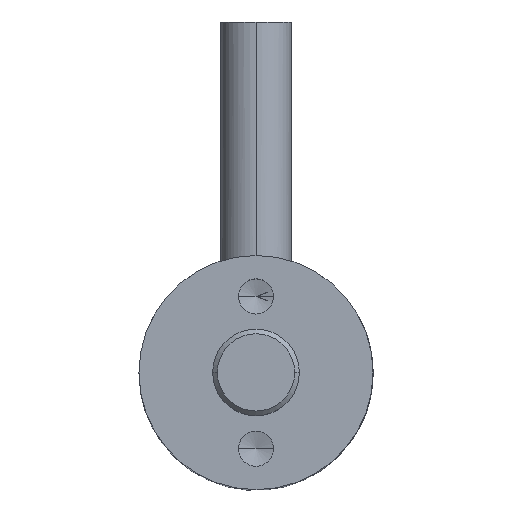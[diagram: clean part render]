
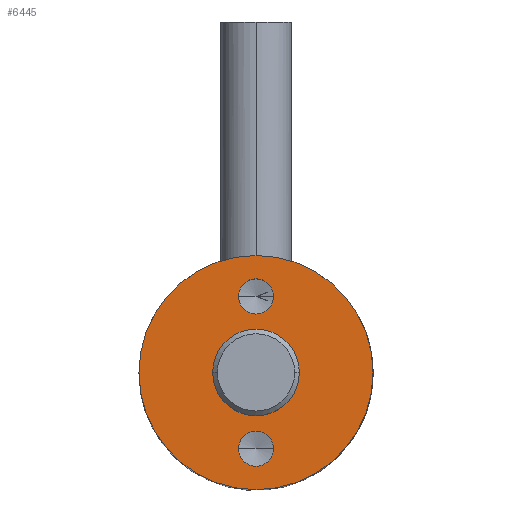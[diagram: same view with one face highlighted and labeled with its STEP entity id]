
A CAD part, top view. The second image highlights one B-rep face of the part: STEP entity #6445.
In plain terms, the highlighted planar face has unit normal (0, 0, 1).
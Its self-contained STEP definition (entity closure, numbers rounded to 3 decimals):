
#2 = EDGE_CURVE ( 'NONE', #4140, #4771, #4032, .T. ) ;
#69 = DIRECTION ( 'NONE',  ( 1., 0., 0. ) ) ;
#192 = CARTESIAN_POINT ( 'NONE',  ( 0., 3.25, 19.5 ) ) ;
#317 = PLANE ( 'NONE',  #7851 ) ;
#332 = FACE_BOUND ( 'NONE', #2342, .T. ) ;
#572 = CIRCLE ( 'NONE', #5124, 0.75 ) ;
#589 = ORIENTED_EDGE ( 'NONE', *, *, #1223, .F. ) ;
#864 = VERTEX_POINT ( 'NONE', #5380 ) ;
#1046 = AXIS2_PLACEMENT_3D ( 'NONE', #3813, #2411, #69 ) ;
#1127 = DIRECTION ( 'NONE',  ( 1., 0., 0. ) ) ;
#1222 = VERTEX_POINT ( 'NONE', #6937 ) ;
#1223 = EDGE_CURVE ( 'NONE', #2688, #5273, #5090, .T. ) ;
#1263 = AXIS2_PLACEMENT_3D ( 'NONE', #2432, #6803, #3965 ) ;
#1562 = CARTESIAN_POINT ( 'NONE',  ( 5., 0., 19.5 ) ) ;
#1617 = AXIS2_PLACEMENT_3D ( 'NONE', #3899, #9104, #4638 ) ;
#1626 = CIRCLE ( 'NONE', #6466, 0.75 ) ;
#1628 = DIRECTION ( 'NONE',  ( 0., 0., 1. ) ) ;
#1837 = CIRCLE ( 'NONE', #5545, 0.75 ) ;
#2185 = DIRECTION ( 'NONE',  ( 1., 0., 0. ) ) ;
#2221 = EDGE_CURVE ( 'NONE', #864, #3204, #1626, .T. ) ;
#2342 = EDGE_LOOP ( 'NONE', ( #7182, #7728 ) ) ;
#2355 = CARTESIAN_POINT ( 'NONE',  ( 0., -3.25, 19.5 ) ) ;
#2411 = DIRECTION ( 'NONE',  ( 0., 0., 1. ) ) ;
#2432 = CARTESIAN_POINT ( 'NONE',  ( 0., 0., 19.5 ) ) ;
#2653 = ORIENTED_EDGE ( 'NONE', *, *, #2221, .F. ) ;
#2688 = VERTEX_POINT ( 'NONE', #5370 ) ;
#2919 = ORIENTED_EDGE ( 'NONE', *, *, #3092, .F. ) ;
#3092 = EDGE_CURVE ( 'NONE', #3204, #864, #4422, .T. ) ;
#3111 = FACE_OUTER_BOUND ( 'NONE', #3936, .T. ) ;
#3123 = CARTESIAN_POINT ( 'NONE',  ( 0., 0., 19.5 ) ) ;
#3204 = VERTEX_POINT ( 'NONE', #7953 ) ;
#3246 = CARTESIAN_POINT ( 'NONE',  ( 0., 0., 19.5 ) ) ;
#3285 = EDGE_CURVE ( 'NONE', #5273, #2688, #4758, .T. ) ;
#3354 = FACE_BOUND ( 'NONE', #6453, .T. ) ;
#3813 = CARTESIAN_POINT ( 'NONE',  ( 0., 0., 19.5 ) ) ;
#3899 = CARTESIAN_POINT ( 'NONE',  ( 0., -3.25, 19.5 ) ) ;
#3936 = EDGE_LOOP ( 'NONE', ( #6780, #5757 ) ) ;
#3959 = CARTESIAN_POINT ( 'NONE',  ( 1.85, 0., 19.5 ) ) ;
#3965 = DIRECTION ( 'NONE',  ( 1., 0., 0. ) ) ;
#4032 = CIRCLE ( 'NONE', #1046, 5. ) ;
#4140 = VERTEX_POINT ( 'NONE', #4463 ) ;
#4422 = CIRCLE ( 'NONE', #1617, 0.75 ) ;
#4463 = CARTESIAN_POINT ( 'NONE',  ( -5., 0., 19.5 ) ) ;
#4586 = DIRECTION ( 'NONE',  ( 1., 0., 0. ) ) ;
#4609 = AXIS2_PLACEMENT_3D ( 'NONE', #3123, #6817, #5343 ) ;
#4621 = DIRECTION ( 'NONE',  ( 0., 0., 1. ) ) ;
#4638 = DIRECTION ( 'NONE',  ( 1., 0., 0. ) ) ;
#4758 = CIRCLE ( 'NONE', #4609, 1.85 ) ;
#4771 = VERTEX_POINT ( 'NONE', #1562 ) ;
#4796 = EDGE_CURVE ( 'NONE', #7703, #1222, #572, .T. ) ;
#5090 = CIRCLE ( 'NONE', #5911, 1.85 ) ;
#5124 = AXIS2_PLACEMENT_3D ( 'NONE', #192, #1628, #4586 ) ;
#5273 = VERTEX_POINT ( 'NONE', #3959 ) ;
#5343 = DIRECTION ( 'NONE',  ( 1., 0., 0. ) ) ;
#5370 = CARTESIAN_POINT ( 'NONE',  ( -1.85, 0., 19.5 ) ) ;
#5380 = CARTESIAN_POINT ( 'NONE',  ( 0.75, -3.25, 19.5 ) ) ;
#5545 = AXIS2_PLACEMENT_3D ( 'NONE', #6564, #6629, #2185 ) ;
#5757 = ORIENTED_EDGE ( 'NONE', *, *, #8735, .T. ) ;
#5802 = CIRCLE ( 'NONE', #1263, 5. ) ;
#5911 = AXIS2_PLACEMENT_3D ( 'NONE', #3246, #4621, #6118 ) ;
#6118 = DIRECTION ( 'NONE',  ( 1., 0., 0. ) ) ;
#6280 = EDGE_LOOP ( 'NONE', ( #589, #6659 ) ) ;
#6285 = DIRECTION ( 'NONE',  ( 1., 0., 0. ) ) ;
#6445 = ADVANCED_FACE ( 'NONE', ( #3354, #332, #9061, #3111 ), #317, .T. ) ;
#6453 = EDGE_LOOP ( 'NONE', ( #2653, #2919 ) ) ;
#6466 = AXIS2_PLACEMENT_3D ( 'NONE', #2355, #9091, #1127 ) ;
#6551 = EDGE_CURVE ( 'NONE', #1222, #7703, #1837, .T. ) ;
#6564 = CARTESIAN_POINT ( 'NONE',  ( 0., 3.25, 19.5 ) ) ;
#6629 = DIRECTION ( 'NONE',  ( 0., 0., 1. ) ) ;
#6659 = ORIENTED_EDGE ( 'NONE', *, *, #3285, .F. ) ;
#6780 = ORIENTED_EDGE ( 'NONE', *, *, #2, .T. ) ;
#6803 = DIRECTION ( 'NONE',  ( 0., 0., 1. ) ) ;
#6817 = DIRECTION ( 'NONE',  ( 0., 0., 1. ) ) ;
#6847 = CARTESIAN_POINT ( 'NONE',  ( 0.75, 3.25, 19.5 ) ) ;
#6937 = CARTESIAN_POINT ( 'NONE',  ( -0.75, 3.25, 19.5 ) ) ;
#7182 = ORIENTED_EDGE ( 'NONE', *, *, #4796, .F. ) ;
#7703 = VERTEX_POINT ( 'NONE', #6847 ) ;
#7709 = CARTESIAN_POINT ( 'NONE',  ( 0., 0., 19.5 ) ) ;
#7728 = ORIENTED_EDGE ( 'NONE', *, *, #6551, .F. ) ;
#7851 = AXIS2_PLACEMENT_3D ( 'NONE', #7709, #9309, #6285 ) ;
#7953 = CARTESIAN_POINT ( 'NONE',  ( -0.75, -3.25, 19.5 ) ) ;
#8735 = EDGE_CURVE ( 'NONE', #4771, #4140, #5802, .T. ) ;
#9061 = FACE_BOUND ( 'NONE', #6280, .T. ) ;
#9091 = DIRECTION ( 'NONE',  ( 0., 0., 1. ) ) ;
#9104 = DIRECTION ( 'NONE',  ( 0., 0., 1. ) ) ;
#9309 = DIRECTION ( 'NONE',  ( 0., 0., 1. ) ) ;
